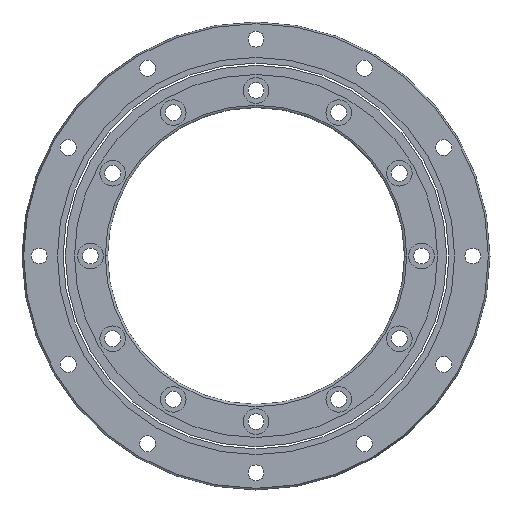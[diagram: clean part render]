
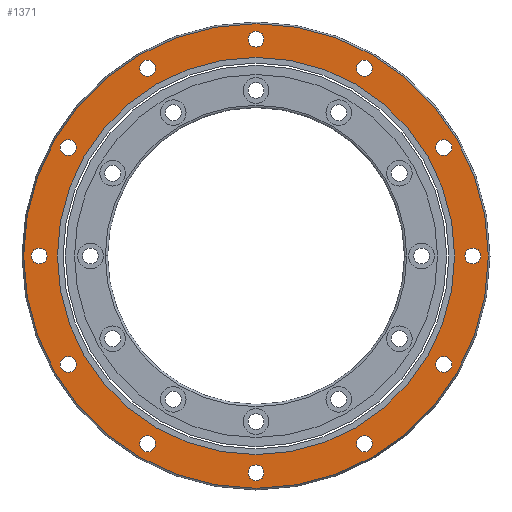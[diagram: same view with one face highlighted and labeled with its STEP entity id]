
A CAD part, front view. The second image highlights one B-rep face of the part: STEP entity #1371.
In plain terms, the highlighted planar face has unit normal (0, -1, 0).
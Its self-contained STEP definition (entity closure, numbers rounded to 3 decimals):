
#56=CARTESIAN_POINT('',(0.,0.,0.));
#57=DIRECTION('',(0.,-1.,0.));
#58=DIRECTION('',(-1.,0.,0.));
#59=AXIS2_PLACEMENT_3D('',#56,#57,#58);
#61=CARTESIAN_POINT('',(0.,0.,0.));
#62=DIRECTION('',(0.,1.,0.));
#63=DIRECTION('',(-1.,0.,0.));
#64=AXIS2_PLACEMENT_3D('',#61,#62,#63);
#66=CARTESIAN_POINT('',(-95.,0.,0.));
#67=DIRECTION('',(0.,1.,0.));
#68=DIRECTION('',(1.,0.,0.));
#69=AXIS2_PLACEMENT_3D('',#66,#67,#68);
#71=CARTESIAN_POINT('',(-95.,0.,0.));
#72=DIRECTION('',(0.,1.,0.));
#73=DIRECTION('',(-1.,0.,0.));
#74=AXIS2_PLACEMENT_3D('',#71,#72,#73);
#76=CARTESIAN_POINT('',(-82.272,0.,47.5));
#77=DIRECTION('',(0.,1.,0.));
#78=DIRECTION('',(0.866,0.,-0.5));
#79=AXIS2_PLACEMENT_3D('',#76,#77,#78);
#81=CARTESIAN_POINT('',(-82.272,0.,47.5));
#82=DIRECTION('',(0.,1.,0.));
#83=DIRECTION('',(-0.866,0.,0.5));
#84=AXIS2_PLACEMENT_3D('',#81,#82,#83);
#86=CARTESIAN_POINT('',(-47.5,0.,82.272));
#87=DIRECTION('',(0.,1.,0.));
#88=DIRECTION('',(0.5,0.,-0.866));
#89=AXIS2_PLACEMENT_3D('',#86,#87,#88);
#91=CARTESIAN_POINT('',(-47.5,0.,82.272));
#92=DIRECTION('',(0.,1.,0.));
#93=DIRECTION('',(-0.5,0.,0.866));
#94=AXIS2_PLACEMENT_3D('',#91,#92,#93);
#96=CARTESIAN_POINT('',(0.,0.,95.));
#97=DIRECTION('',(0.,1.,0.));
#98=DIRECTION('',(0.,0.,-1.));
#99=AXIS2_PLACEMENT_3D('',#96,#97,#98);
#101=CARTESIAN_POINT('',(0.,0.,95.));
#102=DIRECTION('',(0.,1.,0.));
#103=DIRECTION('',(0.,0.,1.));
#104=AXIS2_PLACEMENT_3D('',#101,#102,#103);
#106=CARTESIAN_POINT('',(47.5,0.,82.272));
#107=DIRECTION('',(0.,1.,0.));
#108=DIRECTION('',(-0.5,0.,-0.866));
#109=AXIS2_PLACEMENT_3D('',#106,#107,#108);
#111=CARTESIAN_POINT('',(47.5,0.,82.272));
#112=DIRECTION('',(0.,1.,0.));
#113=DIRECTION('',(0.5,0.,0.866));
#114=AXIS2_PLACEMENT_3D('',#111,#112,#113);
#116=CARTESIAN_POINT('',(82.272,0.,47.5));
#117=DIRECTION('',(0.,1.,0.));
#118=DIRECTION('',(-0.866,0.,-0.5));
#119=AXIS2_PLACEMENT_3D('',#116,#117,#118);
#121=CARTESIAN_POINT('',(82.272,0.,47.5));
#122=DIRECTION('',(0.,1.,0.));
#123=DIRECTION('',(0.866,0.,0.5));
#124=AXIS2_PLACEMENT_3D('',#121,#122,#123);
#126=CARTESIAN_POINT('',(95.,0.,0.));
#127=DIRECTION('',(0.,1.,0.));
#128=DIRECTION('',(-1.,0.,0.));
#129=AXIS2_PLACEMENT_3D('',#126,#127,#128);
#131=CARTESIAN_POINT('',(95.,0.,0.));
#132=DIRECTION('',(0.,1.,0.));
#133=DIRECTION('',(1.,0.,0.));
#134=AXIS2_PLACEMENT_3D('',#131,#132,#133);
#136=CARTESIAN_POINT('',(82.272,0.,-47.5));
#137=DIRECTION('',(0.,1.,0.));
#138=DIRECTION('',(-0.866,0.,0.5));
#139=AXIS2_PLACEMENT_3D('',#136,#137,#138);
#141=CARTESIAN_POINT('',(82.272,0.,-47.5));
#142=DIRECTION('',(0.,1.,0.));
#143=DIRECTION('',(0.866,0.,-0.5));
#144=AXIS2_PLACEMENT_3D('',#141,#142,#143);
#146=CARTESIAN_POINT('',(47.5,0.,-82.272));
#147=DIRECTION('',(0.,1.,0.));
#148=DIRECTION('',(-0.5,0.,0.866));
#149=AXIS2_PLACEMENT_3D('',#146,#147,#148);
#151=CARTESIAN_POINT('',(47.5,0.,-82.272));
#152=DIRECTION('',(0.,1.,0.));
#153=DIRECTION('',(0.5,0.,-0.866));
#154=AXIS2_PLACEMENT_3D('',#151,#152,#153);
#156=CARTESIAN_POINT('',(0.,0.,-95.));
#157=DIRECTION('',(0.,1.,0.));
#158=DIRECTION('',(0.,0.,1.));
#159=AXIS2_PLACEMENT_3D('',#156,#157,#158);
#161=CARTESIAN_POINT('',(0.,0.,-95.));
#162=DIRECTION('',(0.,1.,0.));
#163=DIRECTION('',(0.,0.,-1.));
#164=AXIS2_PLACEMENT_3D('',#161,#162,#163);
#166=CARTESIAN_POINT('',(-47.5,0.,-82.272));
#167=DIRECTION('',(0.,1.,0.));
#168=DIRECTION('',(0.5,0.,0.866));
#169=AXIS2_PLACEMENT_3D('',#166,#167,#168);
#171=CARTESIAN_POINT('',(-47.5,0.,-82.272));
#172=DIRECTION('',(0.,1.,0.));
#173=DIRECTION('',(-0.5,0.,-0.866));
#174=AXIS2_PLACEMENT_3D('',#171,#172,#173);
#176=CARTESIAN_POINT('',(-82.272,0.,-47.5));
#177=DIRECTION('',(0.,1.,0.));
#178=DIRECTION('',(0.866,0.,0.5));
#179=AXIS2_PLACEMENT_3D('',#176,#177,#178);
#181=CARTESIAN_POINT('',(-82.272,0.,-47.5));
#182=DIRECTION('',(0.,1.,0.));
#183=DIRECTION('',(-0.866,0.,-0.5));
#184=AXIS2_PLACEMENT_3D('',#181,#182,#183);
#186=CARTESIAN_POINT('',(0.,0.,0.));
#187=DIRECTION('',(0.,1.,0.));
#188=DIRECTION('',(-1.,0.,0.));
#189=AXIS2_PLACEMENT_3D('',#186,#187,#188);
#199=CARTESIAN_POINT('',(0.,0.,0.));
#200=DIRECTION('',(0.,-1.,0.));
#201=DIRECTION('',(-1.,0.,0.));
#202=AXIS2_PLACEMENT_3D('',#199,#200,#201);
#958=CARTESIAN_POINT('',(-91.5,0.,0.));
#959=VERTEX_POINT('',#958);
#962=CARTESIAN_POINT('',(-98.5,0.,0.));
#963=VERTEX_POINT('',#962);
#974=CARTESIAN_POINT('',(-79.241,0.,45.75));
#975=VERTEX_POINT('',#974);
#978=CARTESIAN_POINT('',(-85.304,0.,49.25));
#979=VERTEX_POINT('',#978);
#990=CARTESIAN_POINT('',(-45.75,0.,79.241));
#991=VERTEX_POINT('',#990);
#994=CARTESIAN_POINT('',(-49.25,0.,85.304));
#995=VERTEX_POINT('',#994);
#1006=CARTESIAN_POINT('',(0.,0.,91.5));
#1007=VERTEX_POINT('',#1006);
#1010=CARTESIAN_POINT('',(0.,0.,98.5));
#1011=VERTEX_POINT('',#1010);
#1022=CARTESIAN_POINT('',(45.75,0.,79.241));
#1023=VERTEX_POINT('',#1022);
#1026=CARTESIAN_POINT('',(49.25,0.,85.304));
#1027=VERTEX_POINT('',#1026);
#1038=CARTESIAN_POINT('',(79.241,0.,45.75));
#1039=VERTEX_POINT('',#1038);
#1042=CARTESIAN_POINT('',(85.304,0.,49.25));
#1043=VERTEX_POINT('',#1042);
#1054=CARTESIAN_POINT('',(91.5,0.,0.));
#1055=VERTEX_POINT('',#1054);
#1058=CARTESIAN_POINT('',(98.5,0.,0.));
#1059=VERTEX_POINT('',#1058);
#1070=CARTESIAN_POINT('',(79.241,0.,-45.75));
#1071=VERTEX_POINT('',#1070);
#1074=CARTESIAN_POINT('',(85.304,0.,-49.25));
#1075=VERTEX_POINT('',#1074);
#1086=CARTESIAN_POINT('',(45.75,0.,-79.241));
#1087=VERTEX_POINT('',#1086);
#1090=CARTESIAN_POINT('',(49.25,0.,-85.304));
#1091=VERTEX_POINT('',#1090);
#1102=CARTESIAN_POINT('',(0.,0.,-91.5));
#1103=VERTEX_POINT('',#1102);
#1106=CARTESIAN_POINT('',(0.,0.,-98.5));
#1107=VERTEX_POINT('',#1106);
#1130=CARTESIAN_POINT('',(-101.772,0.,0.));
#1131=VERTEX_POINT('',#1130);
#1132=CARTESIAN_POINT('',(-87.,0.,0.));
#1134=VERTEX_POINT('',#1132);
#1164=CARTESIAN_POINT('',(101.772,0.,0.));
#1165=VERTEX_POINT('',#1164);
#1166=CARTESIAN_POINT('',(87.,0.,0.));
#1168=VERTEX_POINT('',#1166);
#1190=CARTESIAN_POINT('',(-45.75,0.,-79.241));
#1191=CARTESIAN_POINT('',(-49.25,0.,-85.304));
#1192=VERTEX_POINT('',#1190);
#1193=VERTEX_POINT('',#1191);
#1206=CARTESIAN_POINT('',(-79.241,0.,-45.75));
#1207=CARTESIAN_POINT('',(-85.304,0.,-49.25));
#1208=VERTEX_POINT('',#1206);
#1209=VERTEX_POINT('',#1207);
#1284=CARTESIAN_POINT('',(0.,0.,0.));
#1285=DIRECTION('',(0.,1.,0.));
#1286=DIRECTION('',(1.,0.,0.));
#1287=AXIS2_PLACEMENT_3D('',#1284,#1285,#1286);
#1288=PLANE('',#1287);
#1290=ORIENTED_EDGE('',*,*,#1289,.F.);
#1292=ORIENTED_EDGE('',*,*,#1291,.T.);
#1293=EDGE_LOOP('',(#1290,#1292));
#1294=FACE_OUTER_BOUND('',#1293,.F.);
#1296=ORIENTED_EDGE('',*,*,#1295,.F.);
#1298=ORIENTED_EDGE('',*,*,#1297,.T.);
#1299=EDGE_LOOP('',(#1296,#1298));
#1300=FACE_BOUND('',#1299,.F.);
#1302=ORIENTED_EDGE('',*,*,#1301,.F.);
#1304=ORIENTED_EDGE('',*,*,#1303,.F.);
#1305=EDGE_LOOP('',(#1302,#1304));
#1306=FACE_BOUND('',#1305,.F.);
#1308=ORIENTED_EDGE('',*,*,#1307,.F.);
#1310=ORIENTED_EDGE('',*,*,#1309,.F.);
#1311=EDGE_LOOP('',(#1308,#1310));
#1312=FACE_BOUND('',#1311,.F.);
#1314=ORIENTED_EDGE('',*,*,#1313,.F.);
#1316=ORIENTED_EDGE('',*,*,#1315,.F.);
#1317=EDGE_LOOP('',(#1314,#1316));
#1318=FACE_BOUND('',#1317,.F.);
#1320=ORIENTED_EDGE('',*,*,#1319,.F.);
#1322=ORIENTED_EDGE('',*,*,#1321,.F.);
#1323=EDGE_LOOP('',(#1320,#1322));
#1324=FACE_BOUND('',#1323,.F.);
#1326=ORIENTED_EDGE('',*,*,#1325,.F.);
#1328=ORIENTED_EDGE('',*,*,#1327,.F.);
#1329=EDGE_LOOP('',(#1326,#1328));
#1330=FACE_BOUND('',#1329,.F.);
#1331=ORIENTED_EDGE('',*,*,#1277,.F.);
#1332=ORIENTED_EDGE('',*,*,#1266,.F.);
#1333=EDGE_LOOP('',(#1331,#1332));
#1334=FACE_BOUND('',#1333,.F.);
#1336=ORIENTED_EDGE('',*,*,#1335,.F.);
#1338=ORIENTED_EDGE('',*,*,#1337,.F.);
#1339=EDGE_LOOP('',(#1336,#1338));
#1340=FACE_BOUND('',#1339,.F.);
#1342=ORIENTED_EDGE('',*,*,#1341,.F.);
#1344=ORIENTED_EDGE('',*,*,#1343,.F.);
#1345=EDGE_LOOP('',(#1342,#1344));
#1346=FACE_BOUND('',#1345,.F.);
#1348=ORIENTED_EDGE('',*,*,#1347,.F.);
#1350=ORIENTED_EDGE('',*,*,#1349,.F.);
#1351=EDGE_LOOP('',(#1348,#1350));
#1352=FACE_BOUND('',#1351,.F.);
#1354=ORIENTED_EDGE('',*,*,#1353,.F.);
#1356=ORIENTED_EDGE('',*,*,#1355,.F.);
#1357=EDGE_LOOP('',(#1354,#1356));
#1358=FACE_BOUND('',#1357,.F.);
#1360=ORIENTED_EDGE('',*,*,#1359,.F.);
#1362=ORIENTED_EDGE('',*,*,#1361,.F.);
#1363=EDGE_LOOP('',(#1360,#1362));
#1364=FACE_BOUND('',#1363,.F.);
#1366=ORIENTED_EDGE('',*,*,#1365,.F.);
#1368=ORIENTED_EDGE('',*,*,#1367,.F.);
#1369=EDGE_LOOP('',(#1366,#1368));
#1370=FACE_BOUND('',#1369,.F.);
#60=CIRCLE('',#59,101.772);
#65=CIRCLE('',#64,101.772);
#70=CIRCLE('',#69,3.5);
#75=CIRCLE('',#74,3.5);
#80=CIRCLE('',#79,3.5);
#85=CIRCLE('',#84,3.5);
#90=CIRCLE('',#89,3.5);
#95=CIRCLE('',#94,3.5);
#100=CIRCLE('',#99,3.5);
#105=CIRCLE('',#104,3.5);
#110=CIRCLE('',#109,3.5);
#115=CIRCLE('',#114,3.5);
#120=CIRCLE('',#119,3.5);
#125=CIRCLE('',#124,3.5);
#130=CIRCLE('',#129,3.5);
#135=CIRCLE('',#134,3.5);
#140=CIRCLE('',#139,3.5);
#145=CIRCLE('',#144,3.5);
#150=CIRCLE('',#149,3.5);
#155=CIRCLE('',#154,3.5);
#160=CIRCLE('',#159,3.5);
#165=CIRCLE('',#164,3.5);
#170=CIRCLE('',#169,3.5);
#175=CIRCLE('',#174,3.5);
#180=CIRCLE('',#179,3.5);
#185=CIRCLE('',#184,3.5);
#190=CIRCLE('',#189,87.);
#203=CIRCLE('',#202,87.);
#1266=EDGE_CURVE('',#1043,#1039,#125,.T.);
#1277=EDGE_CURVE('',#1039,#1043,#120,.T.);
#1289=EDGE_CURVE('',#1131,#1165,#60,.T.);
#1291=EDGE_CURVE('',#1131,#1165,#65,.T.);
#1295=EDGE_CURVE('',#1134,#1168,#190,.T.);
#1297=EDGE_CURVE('',#1134,#1168,#203,.T.);
#1301=EDGE_CURVE('',#959,#963,#70,.T.);
#1303=EDGE_CURVE('',#963,#959,#75,.T.);
#1307=EDGE_CURVE('',#975,#979,#80,.T.);
#1309=EDGE_CURVE('',#979,#975,#85,.T.);
#1313=EDGE_CURVE('',#991,#995,#90,.T.);
#1315=EDGE_CURVE('',#995,#991,#95,.T.);
#1319=EDGE_CURVE('',#1007,#1011,#100,.T.);
#1321=EDGE_CURVE('',#1011,#1007,#105,.T.);
#1325=EDGE_CURVE('',#1023,#1027,#110,.T.);
#1327=EDGE_CURVE('',#1027,#1023,#115,.T.);
#1335=EDGE_CURVE('',#1055,#1059,#130,.T.);
#1337=EDGE_CURVE('',#1059,#1055,#135,.T.);
#1341=EDGE_CURVE('',#1071,#1075,#140,.T.);
#1343=EDGE_CURVE('',#1075,#1071,#145,.T.);
#1347=EDGE_CURVE('',#1087,#1091,#150,.T.);
#1349=EDGE_CURVE('',#1091,#1087,#155,.T.);
#1353=EDGE_CURVE('',#1103,#1107,#160,.T.);
#1355=EDGE_CURVE('',#1107,#1103,#165,.T.);
#1359=EDGE_CURVE('',#1192,#1193,#170,.T.);
#1361=EDGE_CURVE('',#1193,#1192,#175,.T.);
#1365=EDGE_CURVE('',#1208,#1209,#180,.T.);
#1367=EDGE_CURVE('',#1209,#1208,#185,.T.);
#1371=ADVANCED_FACE('',(#1294,#1300,#1306,#1312,#1318,#1324,#1330,#1334,#1340,
#1346,#1352,#1358,#1364,#1370),#1288,.F.);
